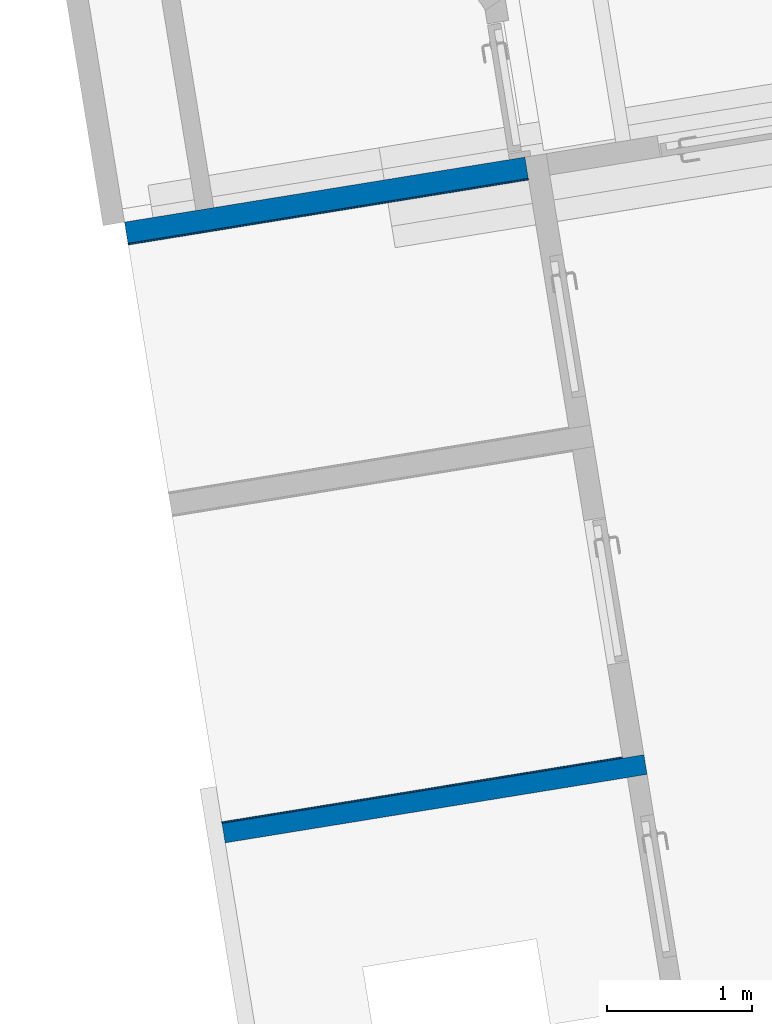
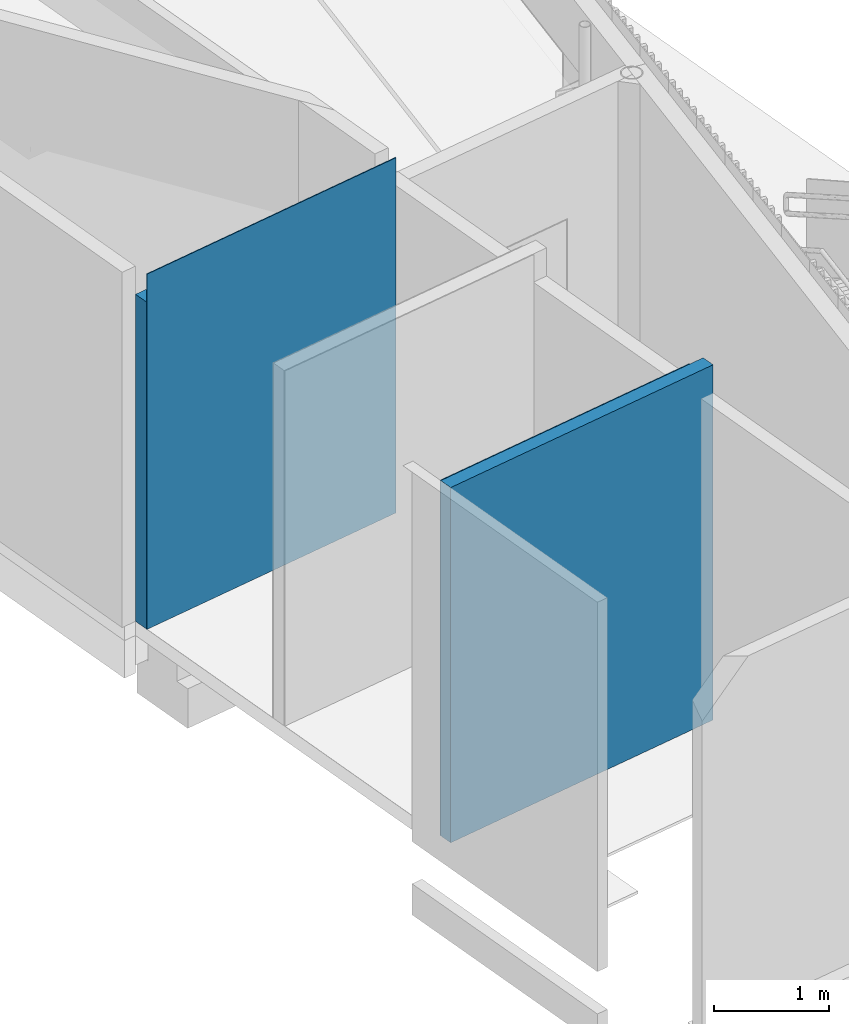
# One storey, part 8 of 23: 4 walls.
"""IFC2X3 building model written with IfcOpenShell, lengths in millimetres."""

from ifc_helpers import new_model, entity, si_unit, converted_unit, derived_unit, direction, frame, frame_2d, origin, origin_with_axes, place, context, subcontext, project, spatial, rectangle, extrude, material, layer, layer_set, layer_usage, type_object, element, save


model = new_model("IFC2X3")

# Units and contexts
plan_context = context("Plan", 3, precision=1e-05, world=origin_with_axes())
model_context = context("Model", 3, precision=0.01, world=origin(), true_north=direction((6.12323399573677e-17, 1.0)))
body_context = subcontext(model_context, "Body", "Model", "MODEL_VIEW")
ifc_project = project(units=[converted_unit("PLANEANGLEUNIT", "DEGREE", entity("IfcPositiveLengthMeasure", 0.0174532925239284), si_unit("PLANEANGLEUNIT", "RADIAN"), dimensions=[0, 0, 0, 0, 0, 0, 0]), si_unit("AREAUNIT", "SQUARE_METRE"), si_unit("LENGTHUNIT", "METRE", prefix="MILLI"), si_unit("MASSUNIT", "GRAM", prefix="KILO"), si_unit("POWERUNIT", "WATT"), si_unit("PRESSUREUNIT", "PASCAL", prefix="KILO"), si_unit("FORCEUNIT", "NEWTON", prefix="KILO"), si_unit("ELECTRICVOLTAGEUNIT", "VOLT"), si_unit("ELECTRICCURRENTUNIT", "AMPERE"), si_unit("THERMODYNAMICTEMPERATUREUNIT", "DEGREE_CELSIUS"), si_unit("TIMEUNIT", "SECOND"), si_unit("VOLUMEUNIT", "CUBIC_METRE"), derived_unit("LINEARVELOCITYUNIT", [(si_unit("LENGTHUNIT", "METRE"), 1), (si_unit("TIMEUNIT", "SECOND"), -1)]), derived_unit("VOLUMETRICFLOWRATEUNIT", [(si_unit("VOLUMEUNIT", "CUBIC_METRE"), 1), (si_unit("TIMEUNIT", "SECOND"), -1)]), derived_unit("THERMALTRANSMITTANCEUNIT", [(si_unit("POWERUNIT", "WATT"), 1), (si_unit("THERMODYNAMICTEMPERATUREUNIT", "KELVIN"), -1), (si_unit("AREAUNIT", "SQUARE_METRE"), -1)]), derived_unit("SOUNDPRESSUREUNIT", [(si_unit("PRESSUREUNIT", "PASCAL"), 1)])], contexts=[model_context, plan_context])

# Site, building, storey
site_placement = place(None, frame((-0.00071070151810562, 0.00438415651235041, 0.0), z_axis=(0.0, 0.0, 1.0), x_axis=(-0.160236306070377, 0.987078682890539, 0.0)))
site = spatial("IfcSite", under=ifc_project, at=site_placement, Name="Default", CompositionType="ELEMENT")
building_placement = place(site_placement, origin_with_axes())
building = spatial("IfcBuilding", under=site, at=building_placement, Name="TOO", CompositionType="ELEMENT")
storey_placement = place(building_placement, frame((0.0, 0.0, 58999.9999999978), z_axis=(0.0, 0.0, 1.0), x_axis=(1.0, 0.0, 0.0)))
storey = spatial("IfcBuildingStorey", under=building, at=storey_placement, Name="Nivå F", CompositionType="ELEMENT", Elevation=58999.9999999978)

# Walls
ifc_material_1 = material(Name="A240 - Gipsplate")
ifc_layer_1 = layer(ifc_material_1, 12.5)
ifc_layer_2 = layer(ifc_material_1, 12.5)
ifc_material_2 = material(Name="A200 - Isolasjon - Rock Wool")
ifc_layer_3 = layer(ifc_material_2, 100.0)
ifc_layer_4 = layer(ifc_material_1, 12.5)
ifc_layer_5 = layer(ifc_material_1, 12.5)
ifc_layer_set_1 = layer_set([ifc_layer_1, ifc_layer_2, ifc_layer_3, ifc_layer_4, ifc_layer_5], Name="Basic Wall:A242 - GG100/100GG")
ifc_layer_usage_1 = layer_usage(ifc_layer_set_1, "AXIS2", "NEGATIVE", 75.0)
wall_type_1 = type_object("IfcWallType", Name="Basic Wall:A242 - GG100/100GG", PredefinedType="STANDARD", material=ifc_layer_set_1)
wall_1_placement = place(storey_placement, frame((770927.619644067, -501027.480498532, -70.0), z_axis=(0.0, 0.0, 1.0), x_axis=(0.0, -1.0, 0.0)))
element("IfcWallStandardCase", 1, at=wall_1_placement, inside=storey, type_object=wall_type_1, material=ifc_layer_usage_1, Name="Basic Wall:A242 - GG100/100GG", ObjectType="Basic Wall:A242 - GG100/100GG", context=body_context, shape_type="SweptSolid", body=[
    extrude(rectangle(XDim=2802.24905381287, YDim=150.00000000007, at=frame_2d((1401.12452690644, -1.98951966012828e-12), x_axis=(-1.0, 0.0))), origin(), (0.0, 0.0, 1.0), 3480.00000000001),
])
ifc_layer_6 = layer(ifc_material_1, 12.5)
ifc_layer_7 = layer(ifc_material_1, 12.5)
ifc_layer_8 = layer(ifc_material_1, 12.5)
ifc_material_3 = material(Name="A240 - Stenderverk - Uisolert")
ifc_layer_9 = layer(ifc_material_3, 100.0)
ifc_layer_set_2 = layer_set([ifc_layer_6, ifc_layer_7, ifc_layer_8, ifc_layer_9], Name="Basic Wall:A242 - GGG100/0")
ifc_layer_usage_2 = layer_usage(ifc_layer_set_2, "AXIS2", "NEGATIVE", 68.75)
wall_type_2 = type_object("IfcWallType", Name="Basic Wall:A242 - GGG100/0", PredefinedType="STANDARD", material=ifc_layer_set_2)
wall_2_placement = place(storey_placement, frame((766726.619644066, -501027.230498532, -70.0), z_axis=(0.0, 0.0, 1.0), x_axis=(0.0, -1.0, 0.0)))
element("IfcWallStandardCase", 2, at=wall_2_placement, inside=storey, type_object=wall_type_2, material=ifc_layer_usage_2, Name="Basic Wall:A242 - GGG100/0", ObjectType="Basic Wall:A242 - GGG100/0", context=body_context, shape_type="SweptSolid", body=[
    extrude(rectangle(XDim=2952.49905381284, YDim=137.500000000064, at=frame_2d((1476.24952690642, -2.0961010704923e-12), x_axis=(-1.0, 0.0))), origin(), (0.0, 0.0, 1.0), 3780.00000000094),
])
ifc_material_4 = material(Name="A240 - Fibergips (R)")
ifc_layer_10 = layer(ifc_material_4, 9.0)
ifc_layer_set_3 = layer_set([ifc_layer_10], Name="Basic Wall:A246 - Fs04")
ifc_layer_usage_3 = layer_usage(ifc_layer_set_3, "AXIS2", "NEGATIVE", 4.5)
wall_type_3 = type_object("IfcWallType", Name="Basic Wall:A246 - Fs04", PredefinedType="STANDARD", material=ifc_layer_set_3)
wall_3_placement = place(storey_placement, frame((766799.869644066, -503829.729552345, -70.0), z_axis=(0.0, 0.0, 1.0), x_axis=(0.0, 1.0, 0.0)))
element("IfcWallStandardCase", 3, at=wall_3_placement, inside=storey, type_object=wall_type_3, material=ifc_layer_usage_3, Name="Basic Wall:A246 - Fs04", ObjectType="Basic Wall:A246 - Fs04", context=body_context, shape_type="SweptSolid", body=[
    extrude(rectangle(XDim=2802.49905381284, YDim=9.00000000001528, at=frame_2d((1401.24952690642, 0.0), x_axis=(-1.0, 0.0))), origin(), (0.0, 0.0, 1.0), 3780.00015869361),
])
ifc_layer_usage_4 = layer_usage(ifc_layer_set_3, "AXIS2", "NEGATIVE", 4.5)
wall_4_placement = place(storey_placement, frame((770848.119644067, -503829.729552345, -70.0), z_axis=(0.0, 0.0, 1.0), x_axis=(0.0, 1.0, 0.0)))
element("IfcWallStandardCase", 4, at=wall_4_placement, inside=storey, type_object=wall_type_3, material=ifc_layer_usage_4, Name="Basic Wall:A246 - Fs04", ObjectType="Basic Wall:A246 - Fs04", context=body_context, shape_type="SweptSolid", body=[
    extrude(rectangle(XDim=2802.49905381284, YDim=9.00000000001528, at=frame_2d((1401.24952690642, 0.0), x_axis=(-1.0, 0.0))), origin(), (0.0, 0.0, 1.0), 3780.00015869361),
])

save(model, "model.ifc")
